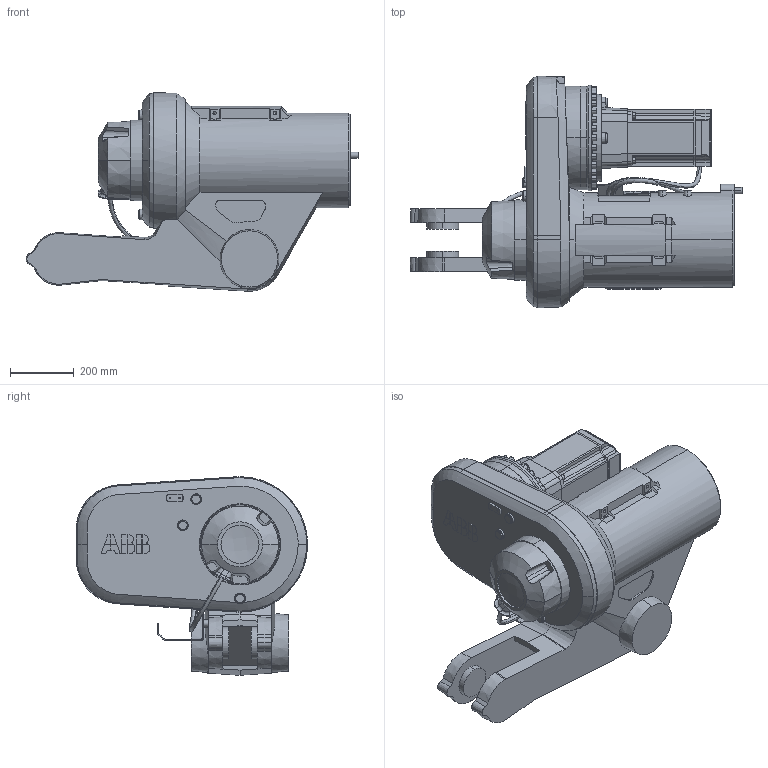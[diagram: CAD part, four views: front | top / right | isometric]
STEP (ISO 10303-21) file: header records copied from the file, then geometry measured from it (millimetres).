
FILE_DESCRIPTION (( 'STEP AP203' ), '1' );
FILE_NAME ('IRB8700-SW6_800-350_IRC5_rev00_LINK3_CAD.STEP', '2015-06-05T09:03:19', ( 'ABB' ), ( 'ABB' ), 'SwSTEP 2.0', 'SolidWorks 2014', '' );
FILE_SCHEMA (( 'CONFIG_CONTROL_DESIGN' ));
Length unit declared in the file: millimetre
Products named in the file (1): IRB8700-SW6_800-350_IRC5_rev00_LINK3_CAD
Bounding box: 1044.31 x 728 x 624.85 mm (x, y, z)
Volume: 110505429.1 mm3; surface area: 2885291.3 mm2
Topology: 3 solids, 3 shells, 811 faces, 2049 edges, 1317 vertices
Faces by surface type: plane 437, cylinder 213, cone 117, bspline 44
Entity records: 30514 total; most frequent: CARTESIAN_POINT 11323, ORIENTED_EDGE 4066, DIRECTION 3820, EDGE_CURVE 2033, VERTEX_POINT 1317, AXIS2_PLACEMENT_3D 1312, VECTOR 1196, LINE 1196
